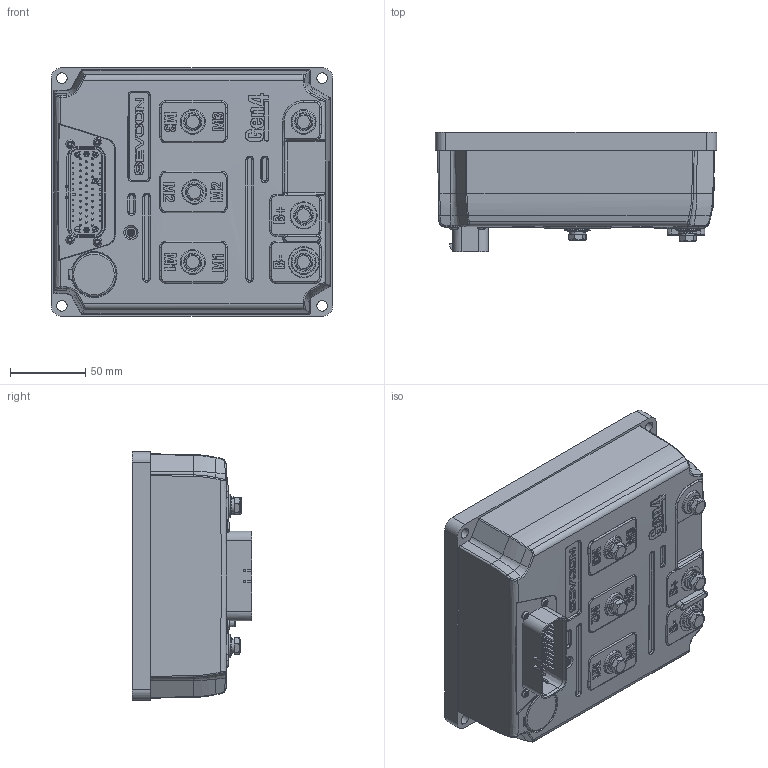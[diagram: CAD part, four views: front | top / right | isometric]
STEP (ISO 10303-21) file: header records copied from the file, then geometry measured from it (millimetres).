
FILE_DESCRIPTION (( 'STEP AP203' ), '1' );
FILE_NAME ('Gen4 SIZE 2 CUSTOMER MODEL.STEP', '2009-11-17T14:36:05', ( ' ' ), ( ' ' ), 'SwSTEP 2.0', 'SolidWorks 2010', '' );
FILE_SCHEMA (( 'CONFIG_CONTROL_DESIGN' ));
Length unit declared in the file: millimetre
Products named in the file (1): Gen4 SIZE 2 CUSTOMER MODEL
Bounding box: 186.5 x 79.35 x 165 mm (x, y, z)
Volume: 715952.1 mm3; surface area: 270362.2 mm2
Topology: 39 solids, 39 shells, 5685 faces, 14950 edges, 9776 vertices
Faces by surface type: plane 3513, cylinder 815, bspline 813, cone 422, torus 112, sphere 10
Entity records: 231600 total; most frequent: CARTESIAN_POINT 95943, ORIENTED_EDGE 29648, DIRECTION 25149, EDGE_CURVE 14824, VECTOR 10243, LINE 10243, VERTEX_POINT 9776, AXIS2_PLACEMENT_3D 7453
